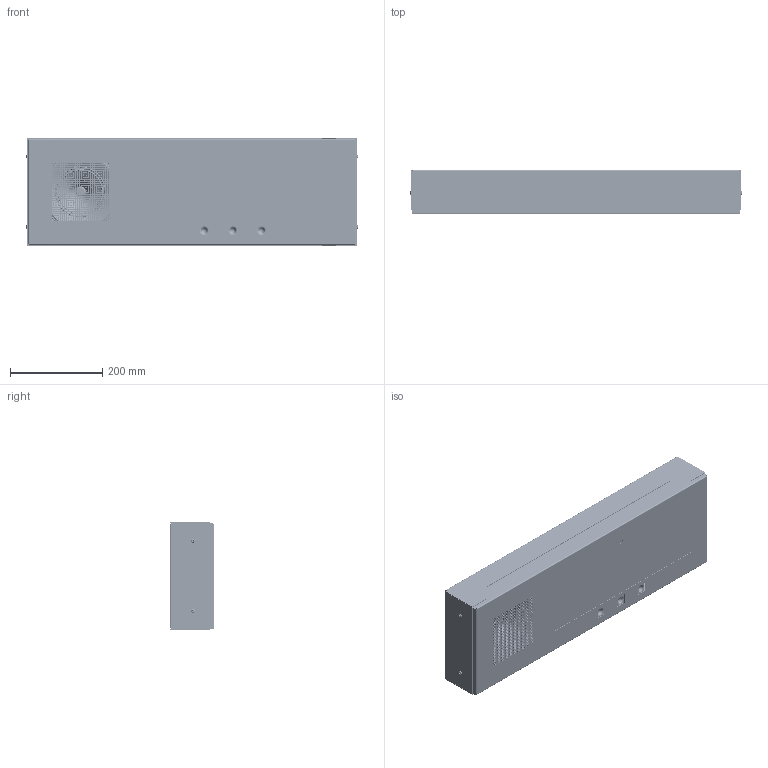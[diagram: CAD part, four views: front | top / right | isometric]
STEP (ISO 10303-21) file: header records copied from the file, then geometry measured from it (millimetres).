
FILE_DESCRIPTION (( 'STEP AP214' ), '1' );
FILE_NAME ('IPCSL-RWB.STEP', '2024-01-22T17:30:06', ( '' ), ( '' ), 'SwSTEP 2.0', 'SolidWorks 2018', '' );
FILE_SCHEMA (( 'AUTOMOTIVE_DESIGN' ));
Length unit declared in the file: millimetre
Products named in the file (1): IPCSL-RWB
Bounding box: 720.49 x 97.08 x 234.7 mm (x, y, z)
Volume: 1610776.6 mm3; surface area: 1673502.7 mm2
Topology: 932 solids, 932 shells, 5953 faces, 11828 edges, 7762 vertices
Faces by surface type: plane 3049, cylinder 2512, torus 199, cone 126, bspline 60, sphere 7
Full cylindrical faces by diameter (mm): 3.175 x968, 3.302 x4, 5 x896, 5.537 x4, 6.35 x5, 8.179 x4, 22.225 x2
Entity records: 251622 total; most frequent: CARTESIAN_POINT 53836, DIRECTION 26320, ORIENTED_EDGE 19864, AXIS2_PLACEMENT_3D 11102, EDGE_CURVE 9932, EDGE_LOOP 9878, FACE_OUTER_BOUND 7851, VERTEX_POINT 7762
